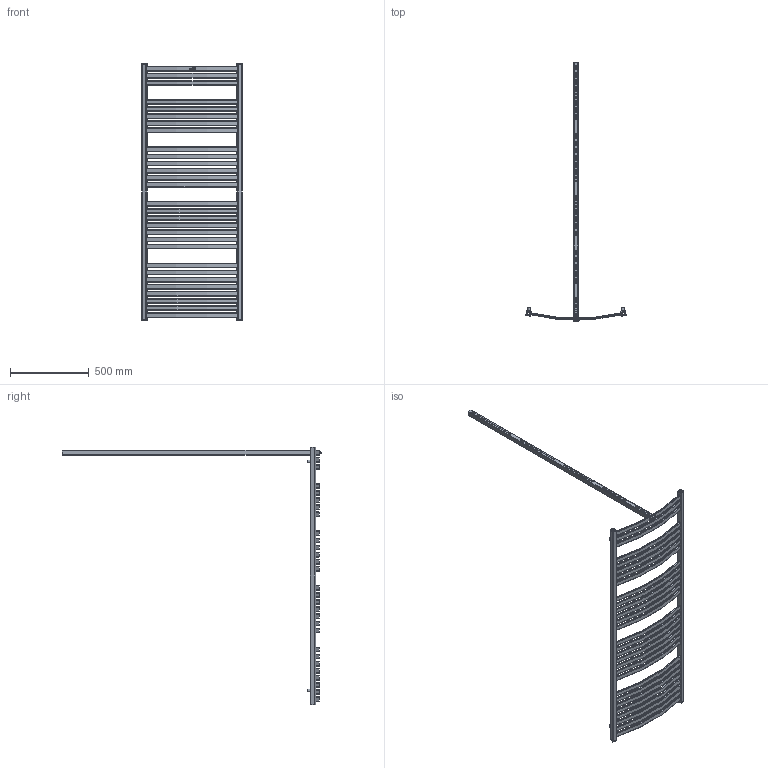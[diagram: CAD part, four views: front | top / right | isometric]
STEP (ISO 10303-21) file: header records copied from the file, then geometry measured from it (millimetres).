
FILE_DESCRIPTION( ( 'Unknown' ), '1' );
FILE_NAME( 'D:/Alplast sp. j/Witryna zespoBu - Projekty/Archiwum/Grzejniki Archiwum/Projekty/STANDARD/AK-EL/AK7-600EL.stp', 'Unknown', ( 'Unknown' ), ( 'Unknown' ), 'PSStep 10.1', 'Unknown', ' ' );
FILE_SCHEMA( ( 'AUTOMOTIVE_DESIGN { 1 0 10303 214 1 1 1 1 }' ) );
Length unit declared in the file: millimetre
Products named in the file (5): Assem1; zaslepka kwadrat otwor; tulejka kat 12stopni; kana³  poziomy lukowy L-600; AK7-EPEL
Bounding box: 635.77 x 1641 x 1630 mm (x, y, z)
Volume: 2630245.1 mm3; surface area: 3523197.8 mm2
Topology: 43 solids, 43 shells, 1430 faces, 4022 edges, 2688 vertices
Faces by surface type: plane 628, cylinder 552, torus 250
Full cylindrical faces by diameter (mm): 16 x5, 18 x5, 18.631 x5, 23 x5
Entity records: 12636 total; most frequent: DIRECTION 1836, CARTESIAN_POINT 1764, ORIENTED_EDGE 1708, EDGE_CURVE 854, AXIS2_PLACEMENT_3D 646, VERTEX_POINT 574, LINE 544, VECTOR 544
